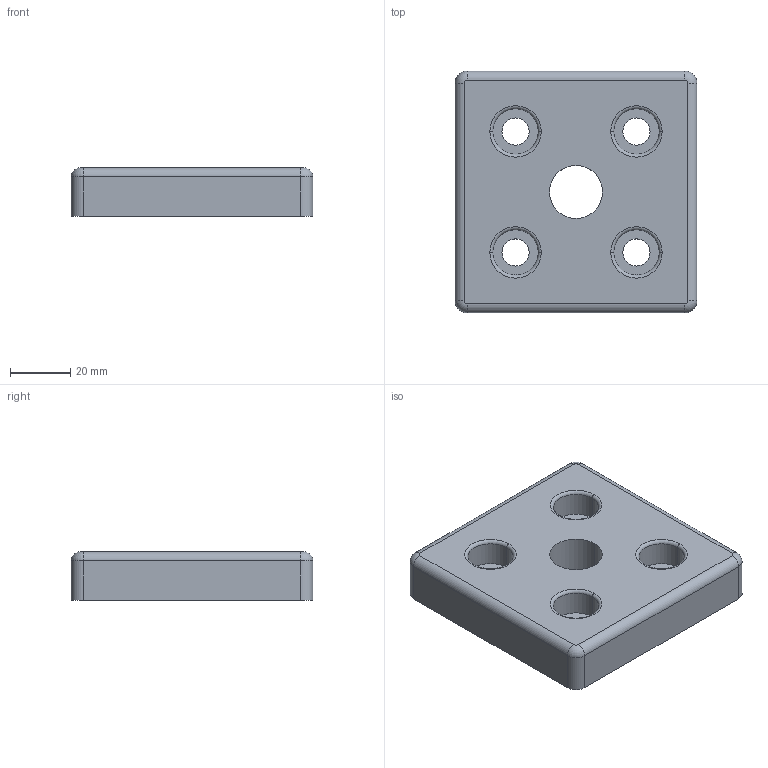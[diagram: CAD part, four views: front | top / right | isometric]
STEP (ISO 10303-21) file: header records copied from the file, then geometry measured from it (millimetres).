
FILE_DESCRIPTION (( 'STEP AP203' ), '1' );
FILE_NAME ('0108FP8080M20.STEP', '2024-09-06T09:13:01', ( 'Windows-Benutzer' ), ( '' ), 'SwSTEP 2.0', 'SolidWorks 2024', '' );
FILE_SCHEMA (( 'CONFIG_CONTROL_DESIGN' ));
Length unit declared in the file: millimetre
Products named in the file (1): 0108FP8080M20
Bounding box: 80 x 80 x 16 mm (x, y, z)
Volume: 53930.9 mm3; surface area: 30038.6 mm2
Topology: 1 solids, 1 shells, 163 faces, 431 edges, 282 vertices
Faces by surface type: cylinder 101, plane 50, torus 12
Entity records: 5236 total; most frequent: DIRECTION 981, CARTESIAN_POINT 877, ORIENTED_EDGE 862, EDGE_CURVE 431, AXIS2_PLACEMENT_3D 386, VERTEX_POINT 282, CIRCLE 222, LINE 209
